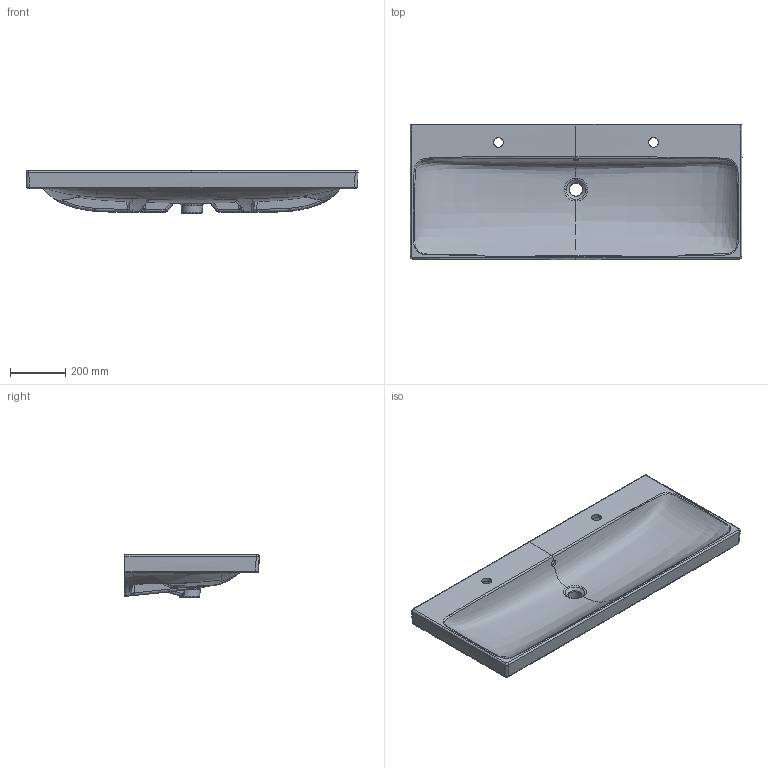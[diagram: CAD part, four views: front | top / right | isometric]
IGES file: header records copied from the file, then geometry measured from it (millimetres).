
Global section: file name: 510012; native system: Autodesk Inventor 2023; preprocessor: unknown; author: JANAN; date: 20241002.131325; units: millimetre
Bounding box: 1198.17 x 487.7 x 155.99 mm (x, y, z)
Volume: 19999865.6 mm3; surface area: 1787129.3 mm2
Topology: 1 solids, 1 shells, 423 faces, 1083 edges, 653 vertices
Faces by surface type: bspline 423
